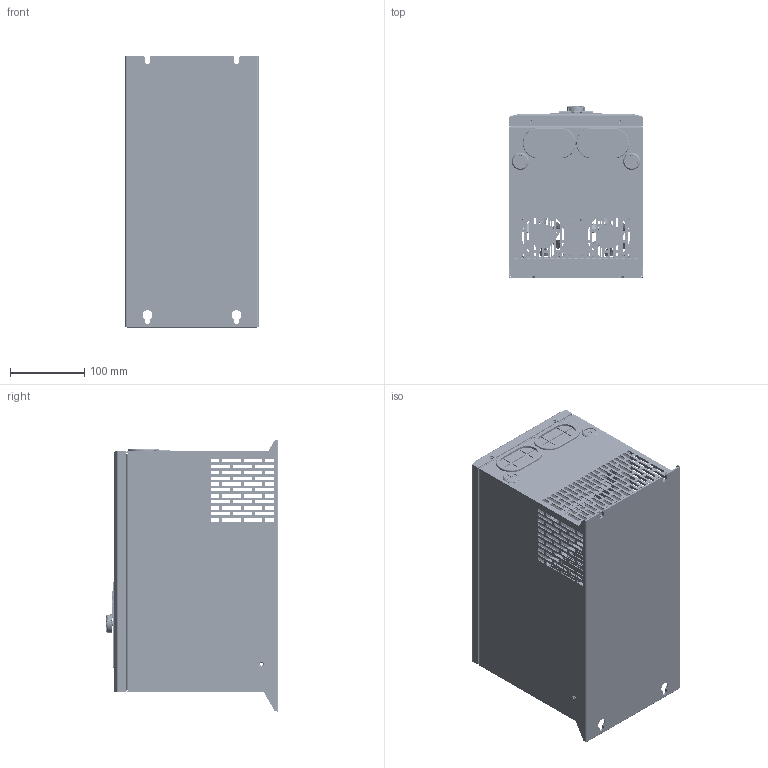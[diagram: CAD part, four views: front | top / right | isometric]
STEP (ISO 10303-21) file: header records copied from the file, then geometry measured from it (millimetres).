
FILE_DESCRIPTION(('STEP AP203'), '1');
FILE_NAME('BU-600-6 _ Òîðìîçíîé ìîäóëü', '2026-04-14T12:24:48', ('admin'), (''), 'C3D Converter', 'C3D Toolkit', '');
FILE_SCHEMA(('CONFIG_CONTROL_DESIGN'));
Length unit declared in the file: millimetre
Products named in the file (62): BU-600-6; CBR600-7T630-SPCC_ASM; CBR600-7T630-201_ASM; CBR600-7T630-301_ASM; CBR600-7T630-301; CBR600-7T630-302_ASM; CBR600-7T630-302; TPS-4-10-ZC; BSO-M4-10-ZC; CBR600-7T630-303_ASM; CBR600-7T630-303; S-M4-ZC; CBR600-4T630-304_ASM; CBR600-4T630-304; CBR600-4T630-305_ASM; CBR600-4T630-305; CBR600-7T630-306; CBR600-4T630-402_ASM; CBR600-4T630-402; CBR600-7T630-403_ASM; CBR600-7T630-403; CBR600-4T630-404_ASM; CBR600-4T630-404; SO-3R5M3-6-ZC; CBR600-4T630-405_ASM; CBR600-4T630-405; S-M5-ZC; CBR600-7T630-SCREW_ASM; M8X20_GB9074_13_ASM; M8X20_GB29_2; D8_GB9074_26; D8_GB9074_24; CBR600-4T630-DEVICE_ASM; GM600-JP_ASM; GM600-JP-SJ_ASM; GM600-JP-SJ-01; GM600-JP-SJ-02; GM600-JP-SJ-03; GM600-JP-SJ-04; GM600-JP-PCB_ASM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
Assembly tree (120 placements, depth 6):
  BU-600-6
    CBR600-7T630-SPCC_ASM
      CBR600-7T630-201_ASM
        CBR600-7T630-301_ASM
          CBR600-7T630-301
        CBR600-7T630-302_ASM
          CBR600-7T630-302
          TPS-4-10-ZC  x2
          BSO-M4-10-ZC  x5
        CBR600-7T630-303_ASM
          CBR600-7T630-303
          S-M4-ZC  x2
        CBR600-4T630-304_ASM  x2
          CBR600-4T630-304
          S-M4-ZC
        CBR600-4T630-305_ASM  x2
          CBR600-4T630-305
          S-M4-ZC
        CBR600-7T630-306
      CBR600-4T630-402_ASM
        CBR600-4T630-402
        TPS-4-10-ZC  x2
      CBR600-7T630-403_ASM
        CBR600-7T630-403
        S-M4-ZC  x12
      CBR600-4T630-404_ASM
        CBR600-4T630-404
        SO-3R5M3-6-ZC  x4
      CBR600-4T630-405_ASM
        CBR600-4T630-405
        S-M5-ZC  x9
    CBR600-7T630-SCREW_ASM
      M8X20_GB9074_13_ASM  x4
        M8X20_GB29_2
        D8_GB9074_26
        D8_GB9074_24
    CBR600-4T630-DEVICE_ASM
      GM600-JP_ASM
        GM600-JP-SJ_ASM
          GM600-JP-SJ-01
          GM600-JP-SJ-02
          GM600-JP-SJ-03
          GM600-JP-SJ-04
        GM600-JP-PCB_ASM
          GM600-JP-PCB
          PCB
          RJ45-GC186556
          LED50361
          DWQ
          ANJIAN  x5
        GM600-JP-SJ-05
        GM600-JP-SJ-06
        GM600-LCD-JP_ASM
          GM600-LCD-JP-SJ_ASM
            GM600-LCD-JP-SJ-01
            GM600-LCD-JP-SJ-02
          GM600-LCD-JP-PCB_ASM
            GM600-LCD-JP-PCB
            P
            ANJIAN  x8
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Bounding box: 180 x 232.8 x 366.2 mm (x, y, z)
Volume: 1584431.3 mm3; surface area: 1822269.5 mm2
Topology: 114 solids, 121 shells, 18986 faces, 50858 edges, 32963 vertices
Faces by surface type: plane 14283, cylinder 2576, bspline 1336, cone 431, torus 181, extrusion 125, sphere 44, revolution 10
Full cylindrical faces by diameter (mm): 0.5 x18, 0.9 x16, 1 x58, 1.2 x4, 1.5 x1, 2 x20, 2.3 x6, 2.54 x1, 3 x14, 3.3 x1, 3.5 x13, 3.8 x4, 4 x41, 4.3 x16, 4.5 x2, 4.8 x5, 5 x34, 5.38 x22, 5.39 x4, 5.4 x28, 5.5 x16, 6 x17, 6.38 x9, 6.4 x1, 6.5 x4, 6.647 x4, 6.8 x1, 7.11 x5, 7.2 x5, 8 x34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
Entity records: 499652 total; most frequent: CARTESIAN_POINT 183803, ORIENTED_EDGE 51852, DIRECTION 40591, EDGE_CURVE 25932, VECTOR 17567, LINE 17442, VERTEX_POINT 16725, EDGE_LOOP 11532
